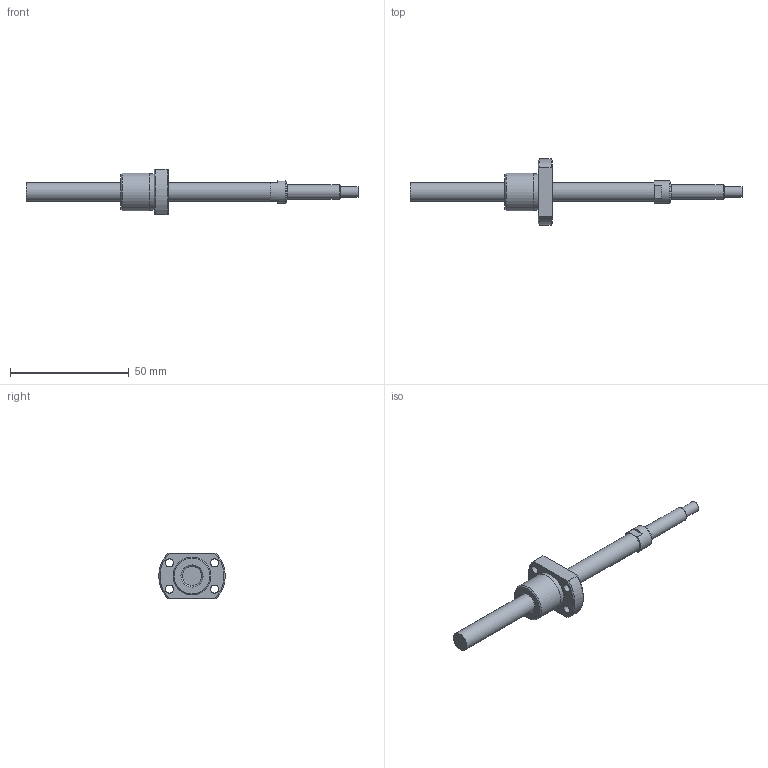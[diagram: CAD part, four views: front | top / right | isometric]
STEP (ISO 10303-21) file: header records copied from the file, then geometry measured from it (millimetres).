
FILE_DESCRIPTION(/* description */ ('STEP AP214'),/* implementation_level */ '2;1');
FILE_NAME(/* name */ 'NSGF0801Z-100R140C3-0-T-S-T-A-(40-S)',/* time_stamp */ '2026-08-24T20:09:28+02:00',/* author */ ('License CC BY-ND 4.0'),/* organization */ ('CADENAS'),/* preprocessor_version */ 'ST-DEVELOPER v20',/* originating_system */ 'PARTsolutions',/* authorisation */ ' ');
FILE_SCHEMA (('AUTOMOTIVE_DESIGN {1 0 10303 214 3 1 1}'));
Length unit declared in the file: millimetre
Products named in the file (3): NSGF0801Z-100R140C3-0-T-S-T-A-(40-S); NSG0801Z-100R14022_(T-S_T-A_2)-2; NSGF0801Z-1
Assembly tree (2 placements, depth 2):
  NSGF0801Z-100R140C3-0-T-S-T-A-(40-S)
    NSG0801Z-100R14022_(T-S_T-A_2)-2
    NSGF0801Z-1
Bounding box: 140 x 27.9 x 19 mm (x, y, z)
Volume: 10385 mm3; surface area: 6282.1 mm2
Topology: 2 solids, 2 shells, 40 faces, 88 edges, 57 vertices
Faces by surface type: plane 17, cylinder 14, cone 8, torus 1
Full cylindrical faces by diameter (mm): 3.4 x4, 4.5 x1, 6 x1, 8 x2, 9.5 x1, 13 x1, 15.5 x1, 16 x1
Entity records: 1095 total; most frequent: CARTESIAN_POINT 187, DIRECTION 186, ORIENTED_EDGE 134, AXIS2_PLACEMENT_3D 84, EDGE_LOOP 72, FACE_BOUND 72, EDGE_CURVE 67, VERTEX_POINT 53
